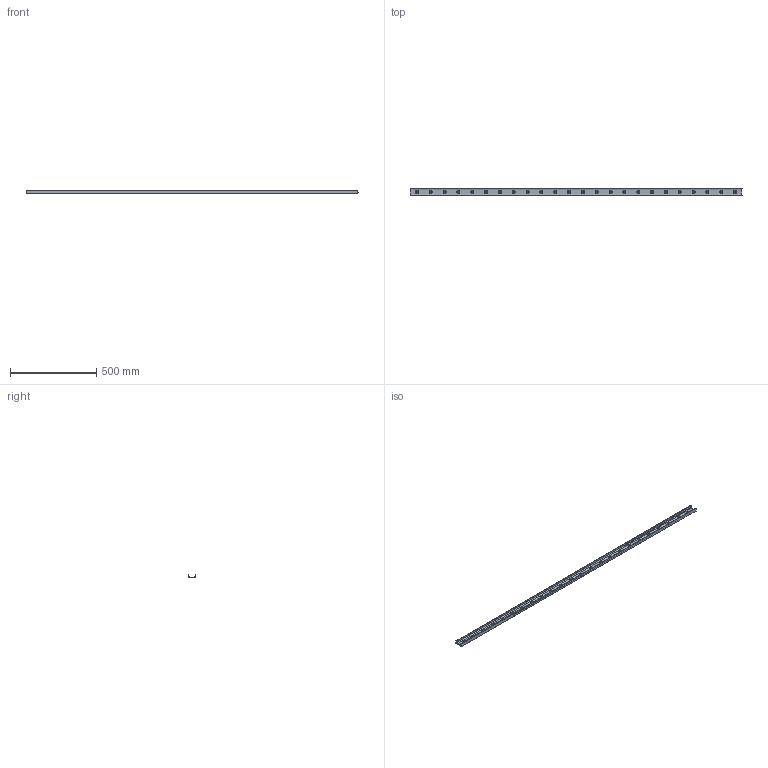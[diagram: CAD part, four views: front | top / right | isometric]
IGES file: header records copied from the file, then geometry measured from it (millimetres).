
Start section: SolidWorks IGES file using analytic representation for surfaces
Global section: file name: C:\Users\IanO\Desktop\43\L1943.ULC43_v2_20180121_IGES\L1943.ULC43-1920.igs; native system: SolidWorks 2017; preprocessor: SolidWorks 2017; author: IanO; date: 190121.084848; units: millimetre
Bounding box: 1920 x 43 x 21 mm (x, y, z)
Surface area: 301326 mm2 (no closed solid volume)
Topology: 0 solids, 0 shells, 146 faces, 3750 edges, 3750 vertices
Faces by surface type: revolution 109, bspline 37
